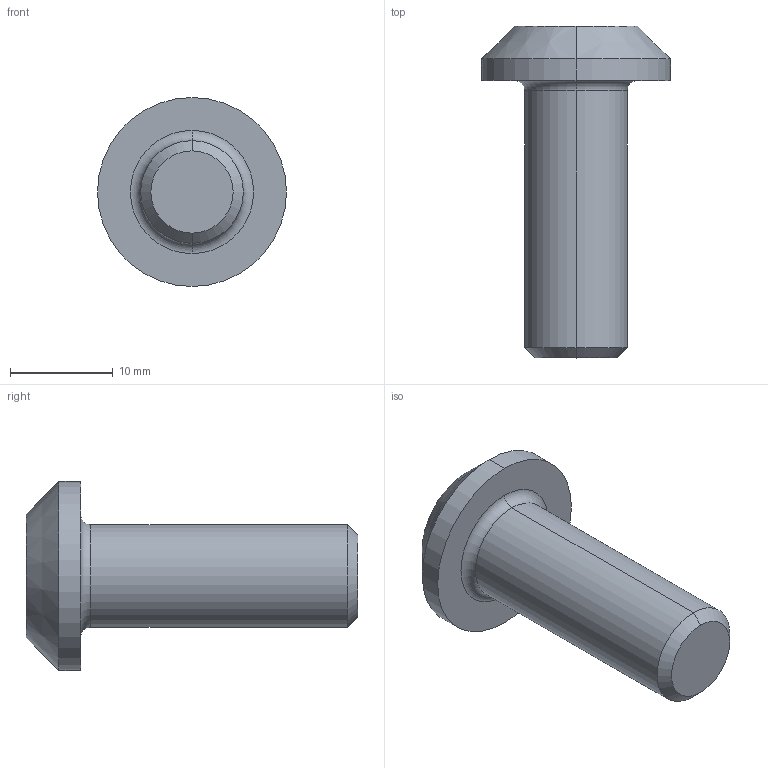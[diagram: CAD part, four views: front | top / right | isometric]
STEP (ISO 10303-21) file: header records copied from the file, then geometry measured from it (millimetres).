
FILE_DESCRIPTION (( 'STEP AP214' ), '1' );
FILE_NAME ('SNSD.30.50.22. 鎔艜 襜贀槻鍣 M10.8x30(E30).STEP', '2014-11-16T16:07:41', ( 'Dmitriy' ), ( '' ), 'SwSTEP 2.0', 'SolidWorks 2014', '' );
FILE_SCHEMA (( 'AUTOMOTIVE_DESIGN' ));
Length unit declared in the file: millimetre
Products named in the file (1): SNSD.30.50.22. 鎔艜 襜贀槻鍣 M10.8x30(E30)
Bounding box: 18.4 x 32.3 x 18.4 mm (x, y, z)
Volume: 2990.9 mm3; surface area: 1684.8 mm2
Topology: 1 solids, 1 shells, 37 faces, 72 edges, 40 vertices
Faces by surface type: plane 17, cylinder 14, cone 4, torus 2
Entity records: 986 total; most frequent: DIRECTION 184, CARTESIAN_POINT 150, ORIENTED_EDGE 144, AXIS2_PLACEMENT_3D 74, EDGE_CURVE 72, EDGE_LOOP 40, VERTEX_POINT 40, FACE_OUTER_BOUND 37
